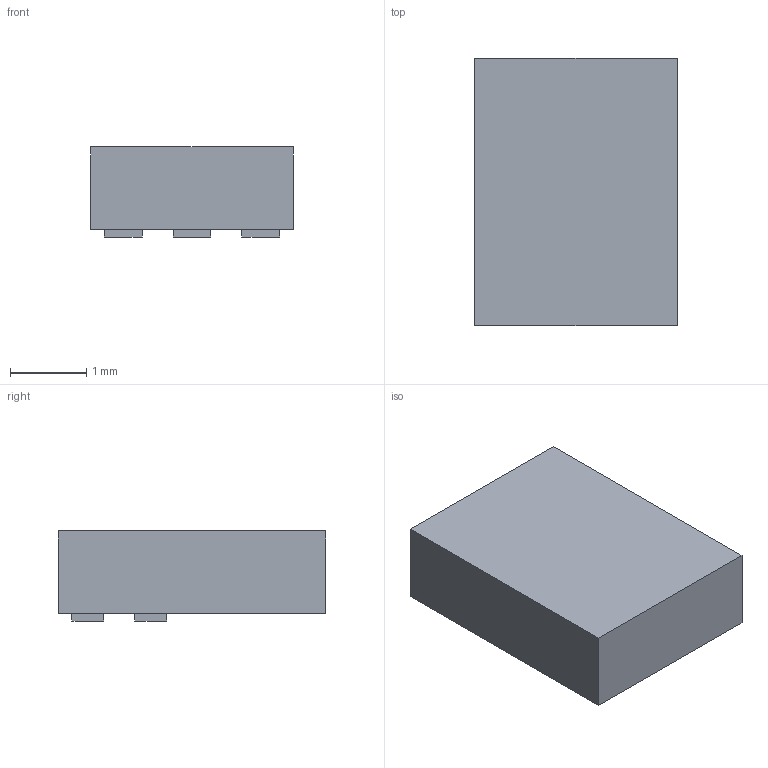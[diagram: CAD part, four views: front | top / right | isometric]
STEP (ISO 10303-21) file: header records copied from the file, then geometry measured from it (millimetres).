
FILE_DESCRIPTION(('FreeCAD Model'),'2;1');
FILE_NAME('/var/www/3D/0T/13922937.1.5.stp','2021-07-04T18:31:19',( 'Author'),(''),'Open CASCADE STEP processor 6.9','FreeCAD','Unknown' );
FILE_SCHEMA(('AUTOMOTIVE_DESIGN { 1 0 10303 214 1 1 1 1 }'));
Length unit declared in the file: millimetre
Products named in the file (3): ASSEMBLY; Body; Pins
Assembly tree (2 placements, depth 2):
  ASSEMBLY
    Body
    Pins
Bounding box: 2.65 x 3.5 x 1.18 mm (x, y, z)
Volume: 10.1 mm3; surface area: 34.8 mm2
Topology: 6 solids, 6 shells, 36 faces, 72 edges, 48 vertices
Faces by surface type: plane 36
Entity records: 1946 total; most frequent: CARTESIAN_POINT 303, DIRECTION 294, LINE 216, VECTOR 216, ORIENTED_EDGE 144, PCURVE 144, DEFINITIONAL_REPRESENTATION 144, EDGE_CURVE 72
